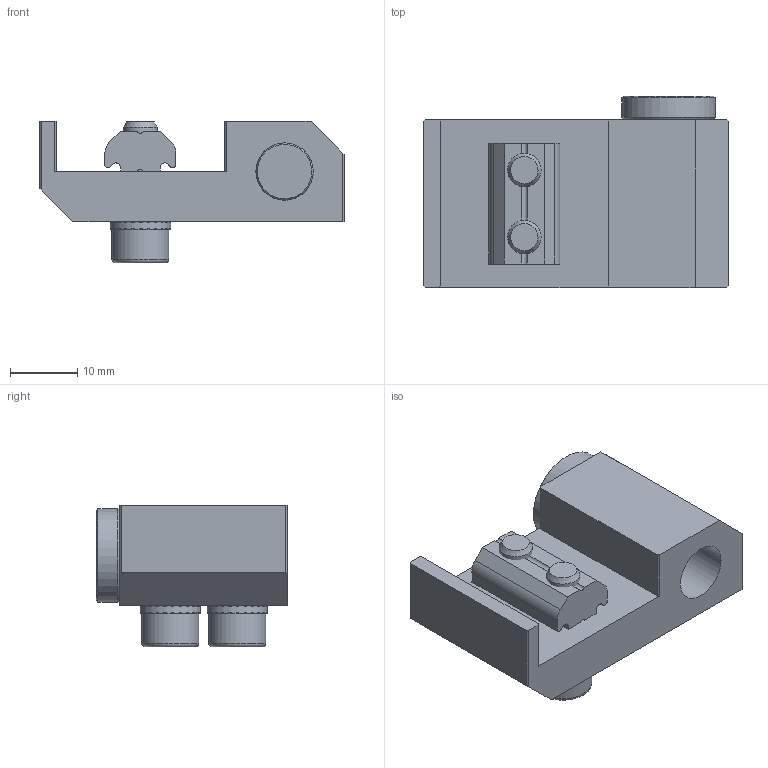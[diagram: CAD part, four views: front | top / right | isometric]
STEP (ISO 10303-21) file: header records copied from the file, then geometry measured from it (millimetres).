
FILE_DESCRIPTION(('STEP AP214'),'1');
FILE_NAME('CA.WSS.X.14.18.stp','2019-02-28T09:15:08',(' '),(' '),'Spatial InterOp 3D',' ',' ');
FILE_SCHEMA(('AUTOMOTIVE_DESIGN { 1 0 10303 214 1 1 1 1 }'));
Length unit declared in the file: millimetre
Products named in the file (7): CA.WSS.X.14.18; WSS.X.14.18; R.5.SCH; CA.GWP.5.10; GWP.5.10; V.TCE5x16; CA.08.14.014
Assembly tree (8 placements, depth 3):
  CA.WSS.X.14.18
    WSS.X.14.18
    R.5.SCH  x2
    CA.GWP.5.10
      GWP.5.10
    V.TCE5x16  x2
    CA.08.14.014
Bounding box: 45.5 x 28.5 x 21.1 mm (x, y, z)
Volume: 12097.3 mm3; surface area: 7770.8 mm2
Topology: 5 solids, 7 shells, 498 faces, 1448 edges, 958 vertices
Faces by surface type: plane 453, cylinder 32, cone 8, torus 5
Full cylindrical faces by diameter (mm): 4.3 x2, 5 x2, 5.1 x1, 5.2 x2, 5.3 x2, 8.2 x1, 8.5 x2, 8.566 x2, 9 x2, 9.728 x1, 11.445 x2, 14 x1
Entity records: 12101 total; most frequent: CARTESIAN_POINT 1979, DIRECTION 1619, ORIENTED_EDGE 1596, EDGE_CURVE 798, AXIS2_PLACEMENT_3D 548, VERTEX_POINT 542, LINE 523, VECTOR 523
